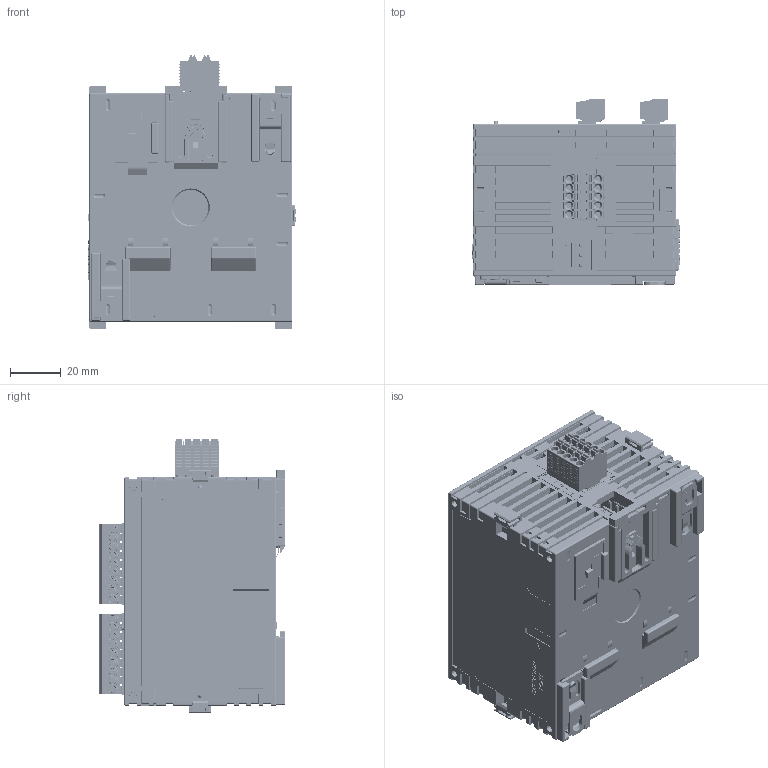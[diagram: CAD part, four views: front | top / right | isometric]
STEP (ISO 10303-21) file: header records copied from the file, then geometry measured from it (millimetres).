
FILE_DESCRIPTION((''),'2;1');
FILE_NAME('28SV3_SW0001','2023-04-17T13:58:07',('ELVIS.CHIEN'),('DELTA ELECTRONICS,INC.'),'CREO PARAMETRIC BY PTC INC, 2020454','CREO PARAMETRIC BY PTC INC, 2020454','');
FILE_SCHEMA(('AUTOMOTIVE_DESIGN { 1 0 10303 214 1 1 1 1 }'));
Products named in the file (1): 28SV3_SW0001
Bounding box: 81.6 x 73.3 x 108.21 mm (x, y, z)
Volume: 415864.6 mm3; surface area: 96983.8 mm2
Topology: 1 solids, 1 shells, 9757 faces, 27197 edges, 17518 vertices
Faces by surface type: plane 6618, cylinder 1749, cone 627, extrusion 414, torus 193, sphere 143, bspline 13
Entity records: 390059 total; most frequent: CARTESIAN_POINT 68668, ORIENTED_EDGE 54140, DIRECTION 48528, EDGE_CURVE 27070, VECTOR 20954, LINE 20540, VERTEX_POINT 17518, AXIS2_PLACEMENT_3D 13787
